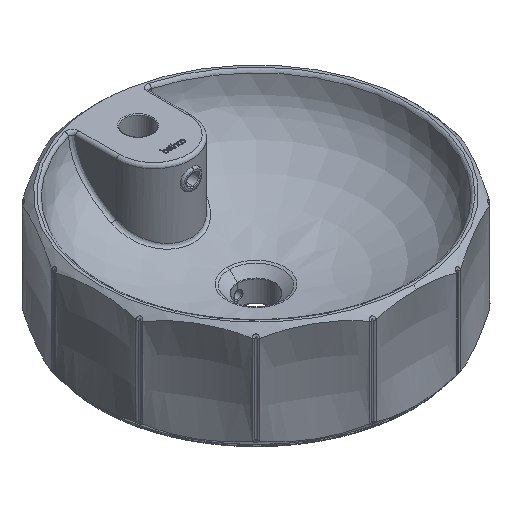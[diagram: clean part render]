
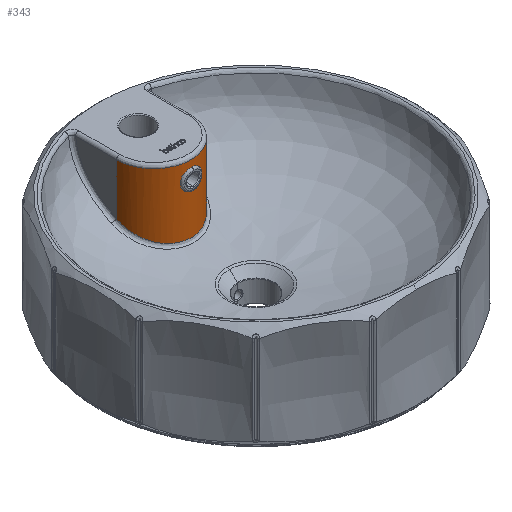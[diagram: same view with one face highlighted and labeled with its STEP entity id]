
A CAD part, isometric view. The second image highlights one B-rep face of the part: STEP entity #343.
In plain terms, the highlighted cylindrical face has radius 47.5 mm (diameter 95 mm), a partial arc.
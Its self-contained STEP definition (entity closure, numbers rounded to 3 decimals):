
#18=CYLINDRICAL_SURFACE('',#3708,47.5);
#33=FACE_BOUND('',#804,.T.);
#343=ADVANCED_FACE('',(#568,#33),#18,.T.);
#568=FACE_OUTER_BOUND('',#803,.T.);
#803=EDGE_LOOP('',(#1878,#1879,#1880,#1881));
#804=EDGE_LOOP('',(#1882));
#1878=ORIENTED_EDGE('',*,*,#2477,.T.);
#1879=ORIENTED_EDGE('',*,*,#2474,.T.);
#1880=ORIENTED_EDGE('',*,*,#2468,.F.);
#1881=ORIENTED_EDGE('',*,*,#2473,.F.);
#1882=ORIENTED_EDGE('',*,*,#2501,.F.);
#2468=EDGE_CURVE('',#3403,#3404,#3032,.T.);
#2473=EDGE_CURVE('',#3408,#3403,#2810,.T.);
#2474=EDGE_CURVE('',#3409,#3404,#3037,.T.);
#2477=EDGE_CURVE('',#3408,#3409,#3040,.T.);
#2501=EDGE_CURVE('',#3421,#3421,#3064,.T.);
#2810=B_SPLINE_CURVE_WITH_KNOTS('',1,(#29890,#29891),.UNSPECIFIED.,.F.,
 .F.,(2,2),(4.,68.748),.UNSPECIFIED.);
#3032=(
BOUNDED_CURVE()
B_SPLINE_CURVE(3,(#29769,#29770,#29771,#29772,#29773,#29774,#29775,#29776,
#29777,#29778,#29779,#29780,#29781,#29782,#29783,#29784,#29785,#29786,#29787,
#29788,#29789,#29790,#29791,#29792,#29793),.UNSPECIFIED.,.F.,.F.)
B_SPLINE_CURVE_WITH_KNOTS((4,1,1,1,1,1,1,1,1,1,1,1,1,1,1,1,1,1,1,1,1,1,
4),(-2.272,6.714,15.701,30.563,
45.425,57.949,70.474,74.658,78.842,
80.486,82.129,83.773,85.416,89.601,
93.785,106.31,118.834,127.563,136.291,
142.425,148.558,157.545,166.532),
 .UNSPECIFIED.)
CURVE()
GEOMETRIC_REPRESENTATION_ITEM()
RATIONAL_B_SPLINE_CURVE((1.,1.,1.,1.,1.,1.,
1.,1.,1.,1.,1.,1.,1.,1.,1.,
1.,1.,1.,1.,1.,1.,1.,
1.,1.,1.))
REPRESENTATION_ITEM('')
);
#3037=(
BOUNDED_CURVE()
B_SPLINE_CURVE(1,(#29892,#29893),.UNSPECIFIED.,.F.,.F.)
B_SPLINE_CURVE_WITH_KNOTS((2,2),(4.,68.747),
 .UNSPECIFIED.)
CURVE()
GEOMETRIC_REPRESENTATION_ITEM()
RATIONAL_B_SPLINE_CURVE((1.,1.))
REPRESENTATION_ITEM('')
);
#3040=(
BOUNDED_CURVE()
B_SPLINE_CURVE(2,(#29962,#29963,#29964,#29965,#29966),.UNSPECIFIED.,.F.,
 .F.)
B_SPLINE_CURVE_WITH_KNOTS((3,2,3),(0.,68.329,136.658),
 .UNSPECIFIED.)
CURVE()
GEOMETRIC_REPRESENTATION_ITEM()
RATIONAL_B_SPLINE_CURVE((1.,0.707,1.,0.707,1.))
REPRESENTATION_ITEM('')
);
#3064=(
BOUNDED_CURVE()
B_SPLINE_CURVE(3,(#30277,#30278,#30279,#30280,#30281,#30282,#30283,#30284,
#30285,#30286,#30287,#30288,#30289,#30290,#30291,#30292,#30293,#30294,#30295,
#30296,#30297,#30298,#30299,#30300,#30301,#30302,#30303,#30304,#30305,#30306,
#30307,#30308,#30309,#30310,#30311),.UNSPECIFIED.,.T.,.F.)
B_SPLINE_CURVE_WITH_KNOTS((4,1,1,1,1,1,1,1,1,1,1,1,1,1,1,1,1,1,1,1,1,1,
1,1,1,1,1,1,1,1,1,1,4),(0.,3.044,5.603,8.161,
10.769,13.377,16.547,17.341,18.134,
18.926,19.718,24.933,26.212,27.492,
28.771,30.05,31.572,33.095,36.139,
37.418,38.697,39.976,41.255,43.863,
46.471,49.641,51.228,52.812,55.42,
58.028,60.586,63.144,66.189),
 .UNSPECIFIED.)
CURVE()
GEOMETRIC_REPRESENTATION_ITEM()
RATIONAL_B_SPLINE_CURVE((1.,1.,1.,1.,1.,1.,1.,1.,
1.,1.,1.,1.,1.,1.,1.,1.,1.,
1.,1.,1.,1.,1.,1.,1.,1.,1.,1.,1.,
1.,1.,1.,1.,1.,1.,1.))
REPRESENTATION_ITEM('')
);
#3403=VERTEX_POINT('',#20127);
#3404=VERTEX_POINT('',#20128);
#3408=VERTEX_POINT('',#20132);
#3409=VERTEX_POINT('',#20133);
#3421=VERTEX_POINT('',#20145);
#3708=AXIS2_PLACEMENT_3D('',#19119,#3778,$);
#3778=DIRECTION('',(0.,0.,-1.));
#19119=CARTESIAN_POINT('',(22354.172,129.995,-10218.934));
#20127=CARTESIAN_POINT('',(22401.672,129.995,-10223.105));
#20128=CARTESIAN_POINT('',(22306.672,129.995,-10223.105));
#20132=CARTESIAN_POINT('',(22401.672,129.995,-10158.357));
#20133=CARTESIAN_POINT('',(22306.672,129.995,-10158.357));
#20145=CARTESIAN_POINT('',(22354.172,82.495,-10168.357));
#29769=CARTESIAN_POINT('',(22401.672,129.995,-10223.105));
#29770=CARTESIAN_POINT('',(22401.672,127.525,-10224.447));
#29771=CARTESIAN_POINT('',(22401.285,122.545,-10227.047));
#29772=CARTESIAN_POINT('',(22399.119,113.526,-10231.443));
#29773=CARTESIAN_POINT('',(22394.242,103.389,-10235.984));
#29774=CARTESIAN_POINT('',(22385.897,93.927,-10239.882));
#29775=CARTESIAN_POINT('',(22375.81,87.194,-10242.496));
#29776=CARTESIAN_POINT('',(22367.352,84.125,-10243.64));
#29777=CARTESIAN_POINT('',(22361.044,82.943,-10244.076));
#29778=CARTESIAN_POINT('',(22357.982,82.621,-10244.194));
#29779=CARTESIAN_POINT('',(22355.688,82.512,-10244.235));
#29780=CARTESIAN_POINT('',(22354.172,82.487,-10244.243));
#29781=CARTESIAN_POINT('',(22352.656,82.511,-10244.235));
#29782=CARTESIAN_POINT('',(22350.362,82.621,-10244.194));
#29783=CARTESIAN_POINT('',(22347.3,82.943,-10244.076));
#29784=CARTESIAN_POINT('',(22340.992,84.125,-10243.64));
#29785=CARTESIAN_POINT('',(22332.533,87.194,-10242.496));
#29786=CARTESIAN_POINT('',(22323.998,92.893,-10240.283));
#29787=CARTESIAN_POINT('',(22317.703,99.235,-10237.697));
#29788=CARTESIAN_POINT('',(22313.68,104.878,-10235.292));
#29789=CARTESIAN_POINT('',(22310.859,110.258,-10232.897));
#29790=CARTESIAN_POINT('',(22308.649,115.923,-10230.274));
#29791=CARTESIAN_POINT('',(22307.058,122.546,-10227.047));
#29792=CARTESIAN_POINT('',(22306.672,127.525,-10224.446));
#29793=CARTESIAN_POINT('',(22306.672,129.995,-10223.105));
#29890=CARTESIAN_POINT('',(22401.672,129.995,-10158.357));
#29891=CARTESIAN_POINT('',(22401.672,129.995,-10223.105));
#29892=CARTESIAN_POINT('',(22306.672,129.995,-10158.357));
#29893=CARTESIAN_POINT('',(22306.672,129.995,-10223.105));
#29962=CARTESIAN_POINT('',(22401.672,129.995,-10158.357));
#29963=CARTESIAN_POINT('',(22401.672,82.495,-10158.357));
#29964=CARTESIAN_POINT('',(22354.172,82.495,-10158.357));
#29965=CARTESIAN_POINT('',(22306.672,82.495,-10158.357));
#29966=CARTESIAN_POINT('',(22306.672,129.995,-10158.357));
#30277=CARTESIAN_POINT('',(22354.172,82.495,-10168.357));
#30278=CARTESIAN_POINT('',(22353.135,82.495,-10168.357));
#30279=CARTESIAN_POINT('',(22351.228,82.56,-10168.631));
#30280=CARTESIAN_POINT('',(22348.671,82.797,-10169.723));
#30281=CARTESIAN_POINT('',(22346.581,83.093,-10171.291));
#30282=CARTESIAN_POINT('',(22344.93,83.396,-10173.319));
#30283=CARTESIAN_POINT('',(22343.746,83.651,-10175.875));
#30284=CARTESIAN_POINT('',(22343.404,83.732,-10178.065));
#30285=CARTESIAN_POINT('',(22343.467,83.717,-10179.651));
#30286=CARTESIAN_POINT('',(22343.558,83.696,-10180.439));
#30287=CARTESIAN_POINT('',(22343.71,83.661,-10181.217));
#30288=CARTESIAN_POINT('',(22344.312,83.527,-10183.404));
#30289=CARTESIAN_POINT('',(22345.64,83.244,-10185.525));
#30290=CARTESIAN_POINT('',(22347.633,82.943,-10187.212));
#30291=CARTESIAN_POINT('',(22348.711,82.806,-10187.926));
#30292=CARTESIAN_POINT('',(22349.873,82.685,-10188.505));
#30293=CARTESIAN_POINT('',(22351.177,82.583,-10188.972));
#30294=CARTESIAN_POINT('',(22352.617,82.512,-10189.283));
#30295=CARTESIAN_POINT('',(22354.69,82.478,-10189.431));
#30296=CARTESIAN_POINT('',(22356.68,82.545,-10189.147));
#30297=CARTESIAN_POINT('',(22358.47,82.685,-10188.505));
#30298=CARTESIAN_POINT('',(22359.631,82.805,-10187.925));
#30299=CARTESIAN_POINT('',(22360.71,82.944,-10187.213));
#30300=CARTESIAN_POINT('',(22362.034,83.143,-10186.09));
#30301=CARTESIAN_POINT('',(22363.413,83.396,-10184.395));
#30302=CARTESIAN_POINT('',(22364.596,83.65,-10181.839));
#30303=CARTESIAN_POINT('',(22364.981,83.742,-10179.385));
#30304=CARTESIAN_POINT('',(22364.815,83.702,-10177.272));
#30305=CARTESIAN_POINT('',(22364.374,83.603,-10175.392));
#30306=CARTESIAN_POINT('',(22363.413,83.396,-10173.319));
#30307=CARTESIAN_POINT('',(22361.762,83.093,-10171.291));
#30308=CARTESIAN_POINT('',(22359.672,82.797,-10169.723));
#30309=CARTESIAN_POINT('',(22357.116,82.56,-10168.631));
#30310=CARTESIAN_POINT('',(22355.208,82.495,-10168.357));
#30311=CARTESIAN_POINT('',(22354.172,82.495,-10168.357));
